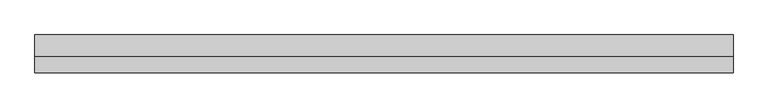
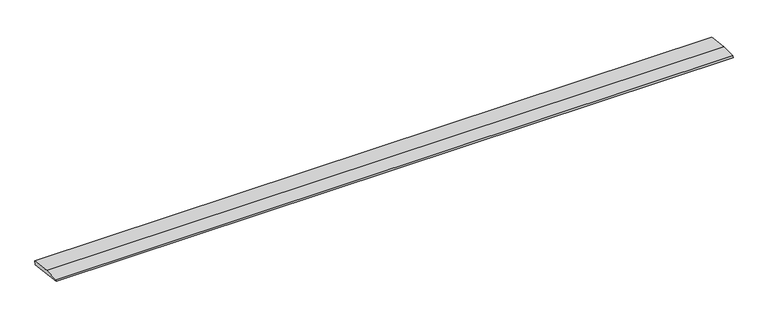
"""IFC4 building model written with IfcOpenShell, lengths in millimetres: beam geometry, weatherboad : weatherboad."""

from ifc_helpers import new_model, si_unit, frame, origin, place, context, project, spatial, polyline, outline, extrude, source, transform, mapped, element, save


def beam_7df44f64(model_context):
    return source(origin(), model_context, "Body", "SweptSolid", [
        extrude(outline(polyline([(0.0, -9.143159), (1.1226388, 0.0), (79.0749747, 0.0), (180.9387048, -12.5072934), (178.6231873, -31.3656703), (0.0, -9.143159)])), frame((-1668.9854861, 0.0, 0.0), z_axis=(1.0, 0.0, 0.0), x_axis=(0.0, 1.0, 0.0)), (0.0, 0.0, 1.0), 3337.9709721),
    ])


if __name__ == "__main__":
    model = new_model("IFC4")
    model_context = context("Model", 3, world=origin())
    ifc_project = project(units=[si_unit("LENGTHUNIT", "METRE", prefix="MILLI")], contexts=[model_context])
    site = spatial("IfcSite", under=ifc_project)
    building = spatial("IfcBuilding", under=site)
    placement = place(None, origin())
    beam_shape = beam_7df44f64(model_context)
    element("IfcBeam", 1, ObjectType="weatherboad : weatherboad", at=placement, inside=building, context=model_context, shape_type="MappedRepresentation", body=[
        mapped(beam_shape, transform((0.0, 0.0, 0.0), x_axis=(1.0, 0.0, 0.0), y_axis=(0.0, 1.0, 0.0), z_axis=(0.0, 0.0, 1.0))),
    ])
    save(model, "model.ifc")
